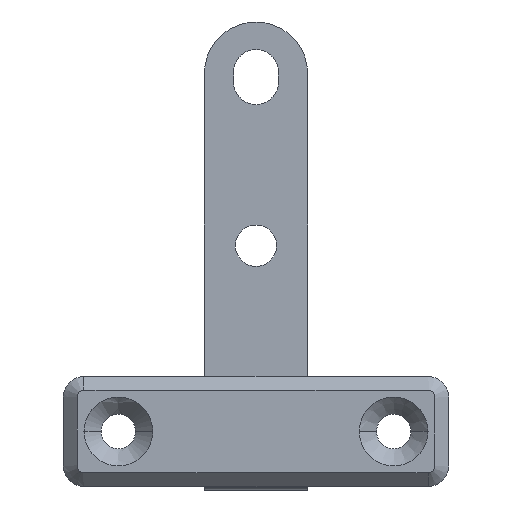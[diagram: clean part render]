
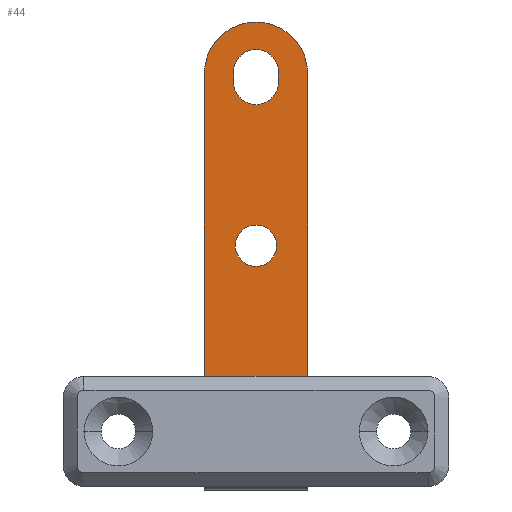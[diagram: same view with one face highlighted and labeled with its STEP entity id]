
A CAD part, left-side view. The second image highlights one B-rep face of the part: STEP entity #44.
In plain terms, the highlighted planar face has unit normal (-1, 0, 0).
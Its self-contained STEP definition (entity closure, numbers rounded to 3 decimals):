
#29=FACE_BOUND('',#565,.T.);
#30=FACE_BOUND('',#566,.T.);
#44=ADVANCED_FACE('',(#304,#29,#30),#4440,.T.);
#304=FACE_OUTER_BOUND('',#564,.T.);
#564=EDGE_LOOP('',(#841,#842,#843,#844));
#565=EDGE_LOOP('',(#845,#846,#847,#848));
#566=EDGE_LOOP('',(#849,#850));
#841=ORIENTED_EDGE('',*,*,#2199,.T.);
#842=ORIENTED_EDGE('',*,*,#2200,.T.);
#843=ORIENTED_EDGE('',*,*,#2201,.T.);
#844=ORIENTED_EDGE('',*,*,#2198,.F.);
#845=ORIENTED_EDGE('',*,*,#2203,.T.);
#846=ORIENTED_EDGE('',*,*,#2246,.T.);
#847=ORIENTED_EDGE('',*,*,#2202,.T.);
#848=ORIENTED_EDGE('',*,*,#2248,.T.);
#849=ORIENTED_EDGE('',*,*,#2253,.T.);
#850=ORIENTED_EDGE('',*,*,#2255,.T.);
#2198=EDGE_CURVE('',#4015,#4012,#3104,.T.);
#2199=EDGE_CURVE('',#4015,#4016,#3040,.T.);
#2200=EDGE_CURVE('',#4016,#4017,#3041,.T.);
#2201=EDGE_CURVE('',#4017,#4012,#3042,.T.);
#2202=EDGE_CURVE('',#4019,#4020,#3043,.T.);
#2203=EDGE_CURVE('',#4021,#4018,#3044,.T.);
#2246=EDGE_CURVE('',#4018,#4019,#3118,.T.);
#2248=EDGE_CURVE('',#4020,#4021,#3119,.T.);
#2253=EDGE_CURVE('',#4023,#4022,#3122,.T.);
#2255=EDGE_CURVE('',#4022,#4023,#3123,.T.);
#3040=B_SPLINE_CURVE_WITH_KNOTS('',1,(#6726,#6727),.UNSPECIFIED.,.F.,.F.,
(2,2),(0.,55.5),.UNSPECIFIED.);
#3041=B_SPLINE_CURVE_WITH_KNOTS('',1,(#6728,#6729),.UNSPECIFIED.,.F.,.F.,
(2,2),(0.,15.),.UNSPECIFIED.);
#3042=B_SPLINE_CURVE_WITH_KNOTS('',1,(#6730,#6731),.UNSPECIFIED.,.F.,.F.,
(2,2),(0.,55.5),.UNSPECIFIED.);
#3043=B_SPLINE_CURVE_WITH_KNOTS('',1,(#6732,#6733),.UNSPECIFIED.,.F.,.F.,
(2,2),(0.,1.5),.UNSPECIFIED.);
#3044=B_SPLINE_CURVE_WITH_KNOTS('',1,(#6734,#6735),.UNSPECIFIED.,.F.,.F.,
(2,2),(0.,1.5),.UNSPECIFIED.);
#3104=TRIMMED_CURVE($,#3558,(#6724),(#6725),.T.,.CARTESIAN.);
#3118=TRIMMED_CURVE($,#3572,(#6834),(#6835),.T.,.CARTESIAN.);
#3119=TRIMMED_CURVE($,#3573,(#6839),(#6840),.T.,.CARTESIAN.);
#3122=TRIMMED_CURVE($,#3576,(#6852),(#6853),.T.,.CARTESIAN.);
#3123=TRIMMED_CURVE($,#3577,(#6857),(#6858),.T.,.CARTESIAN.);
#3558=CIRCLE('',#4803,7.5);
#3572=CIRCLE('',#4817,3.25);
#3573=CIRCLE('',#4818,3.25);
#3576=CIRCLE('',#4821,3.);
#3577=CIRCLE('',#4822,3.);
#4012=VERTEX_POINT('',#6680);
#4015=VERTEX_POINT('',#6683);
#4016=VERTEX_POINT('',#6684);
#4017=VERTEX_POINT('',#6685);
#4018=VERTEX_POINT('',#6686);
#4019=VERTEX_POINT('',#6687);
#4020=VERTEX_POINT('',#6688);
#4021=VERTEX_POINT('',#6689);
#4022=VERTEX_POINT('',#6690);
#4023=VERTEX_POINT('',#6691);
#4440=PLANE('',#4781);
#4781=AXIS2_PLACEMENT_3D('',#6659,#5492,$);
#4803=AXIS2_PLACEMENT_3D($,#6723,#5515,#5516);
#4817=AXIS2_PLACEMENT_3D($,#6833,#5543,#5544);
#4818=AXIS2_PLACEMENT_3D($,#6838,#5545,#5546);
#4821=AXIS2_PLACEMENT_3D($,#6851,#5551,#5552);
#4822=AXIS2_PLACEMENT_3D($,#6856,#5553,#5554);
#5492=DIRECTION('',(-1.,0.,0.));
#5515=DIRECTION('',(1.,0.,0.));
#5516=DIRECTION('',(0.,1.,0.));
#5543=DIRECTION('',(1.,0.,0.));
#5544=DIRECTION('',(0.,-1.,0.));
#5545=DIRECTION('',(1.,0.,0.));
#5546=DIRECTION('',(0.,1.,0.));
#5551=DIRECTION('',(1.,0.,0.));
#5552=DIRECTION('',(0.,-1.,0.));
#5553=DIRECTION('',(1.,0.,0.));
#5554=DIRECTION('',(0.,1.,0.));
#6659=CARTESIAN_POINT('',(-12.85,16.512,-52.655));
#6680=CARTESIAN_POINT('',(-12.85,0.,9.157));
#6683=CARTESIAN_POINT('',(-12.85,15.,9.157));
#6684=CARTESIAN_POINT('',(-12.85,15.,-46.343));
#6685=CARTESIAN_POINT('',(-12.85,0.,-46.343));
#6686=CARTESIAN_POINT('',(-12.85,4.25,7.907));
#6687=CARTESIAN_POINT('',(-12.85,10.75,7.907));
#6688=CARTESIAN_POINT('',(-12.85,10.75,9.407));
#6689=CARTESIAN_POINT('',(-12.85,4.25,9.407));
#6690=CARTESIAN_POINT('',(-12.85,10.5,-15.843));
#6691=CARTESIAN_POINT('',(-12.85,4.5,-15.843));
#6723=CARTESIAN_POINT('',(-12.85,7.5,9.157));
#6724=CARTESIAN_POINT('',(-12.85,15.,9.157));
#6725=CARTESIAN_POINT('',(-12.85,0.,9.157));
#6726=CARTESIAN_POINT('',(-12.85,15.,9.157));
#6727=CARTESIAN_POINT('',(-12.85,15.,-46.343));
#6728=CARTESIAN_POINT('',(-12.85,15.,-46.343));
#6729=CARTESIAN_POINT('',(-12.85,0.,-46.343));
#6730=CARTESIAN_POINT('',(-12.85,0.,-46.343));
#6731=CARTESIAN_POINT('',(-12.85,0.,9.157));
#6732=CARTESIAN_POINT('',(-12.85,10.75,7.907));
#6733=CARTESIAN_POINT('',(-12.85,10.75,9.407));
#6734=CARTESIAN_POINT('',(-12.85,4.25,9.407));
#6735=CARTESIAN_POINT('',(-12.85,4.25,7.907));
#6833=CARTESIAN_POINT('',(-12.85,7.5,7.907));
#6834=CARTESIAN_POINT('',(-12.85,4.25,7.907));
#6835=CARTESIAN_POINT('',(-12.85,10.75,7.907));
#6838=CARTESIAN_POINT('',(-12.85,7.5,9.407));
#6839=CARTESIAN_POINT('',(-12.85,10.75,9.407));
#6840=CARTESIAN_POINT('',(-12.85,4.25,9.407));
#6851=CARTESIAN_POINT('',(-12.85,7.5,-15.843));
#6852=CARTESIAN_POINT('',(-12.85,4.5,-15.843));
#6853=CARTESIAN_POINT('',(-12.85,10.5,-15.843));
#6856=CARTESIAN_POINT('',(-12.85,7.5,-15.843));
#6857=CARTESIAN_POINT('',(-12.85,10.5,-15.843));
#6858=CARTESIAN_POINT('',(-12.85,4.5,-15.843));
